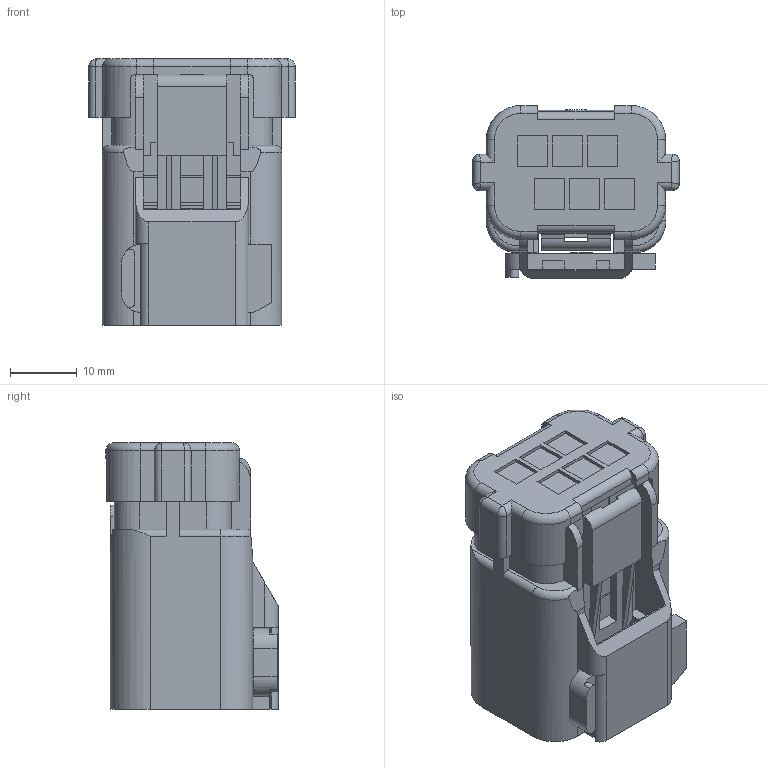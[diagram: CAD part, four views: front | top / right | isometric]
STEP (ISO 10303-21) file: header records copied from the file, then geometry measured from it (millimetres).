
FILE_DESCRIPTION(/* description */ (''),/* implementation_level */ '2;1');
FILE_NAME(/* name */ '15419838-STEP-CONN.stp',/* time_stamp */ '2020-03-05T13:36:44+05:00',/* author */ (''),/* organization */ (''),/* preprocessor_version */ 'ST-DEVELOPER v16',/* originating_system */ 'SIEMENS PLM Software NX 11.0',/* authorisation */ '');
FILE_SCHEMA (('AUTOMOTIVE_DESIGN { 1 0 10303 214 3 1 1 1 }'));
Length unit declared in the file: millimetre
Products named in the file (1): cjzt155849DEpj6y
Bounding box: 31 x 25.9 x 40 mm (x, y, z)
Volume: 16256.4 mm3; surface area: 9999.2 mm2
Topology: 1 solids, 1 shells, 390 faces, 1090 edges, 708 vertices
Faces by surface type: plane 286, cylinder 90, torus 10, bspline 4
Entity records: 12807 total; most frequent: CARTESIAN_POINT 2649, ORIENTED_EDGE 2180, DIRECTION 2010, EDGE_CURVE 1090, LINE 878, VECTOR 878, VERTEX_POINT 708, AXIS2_PLACEMENT_3D 566
